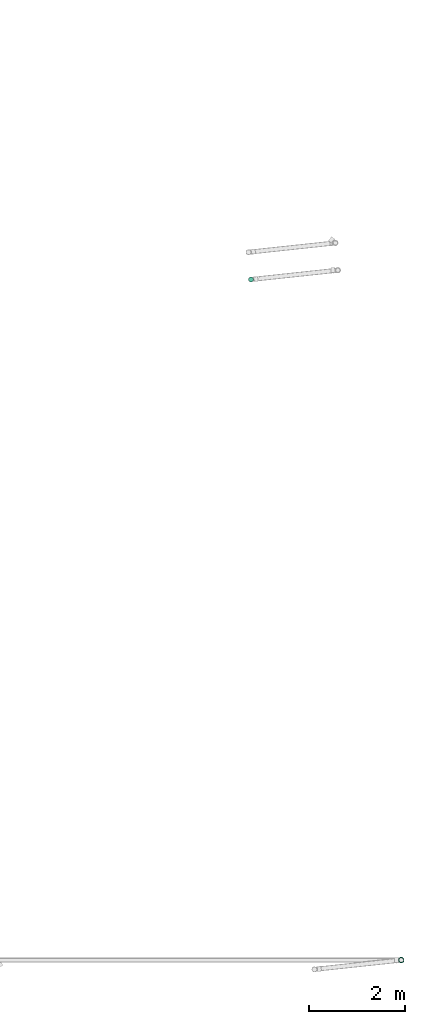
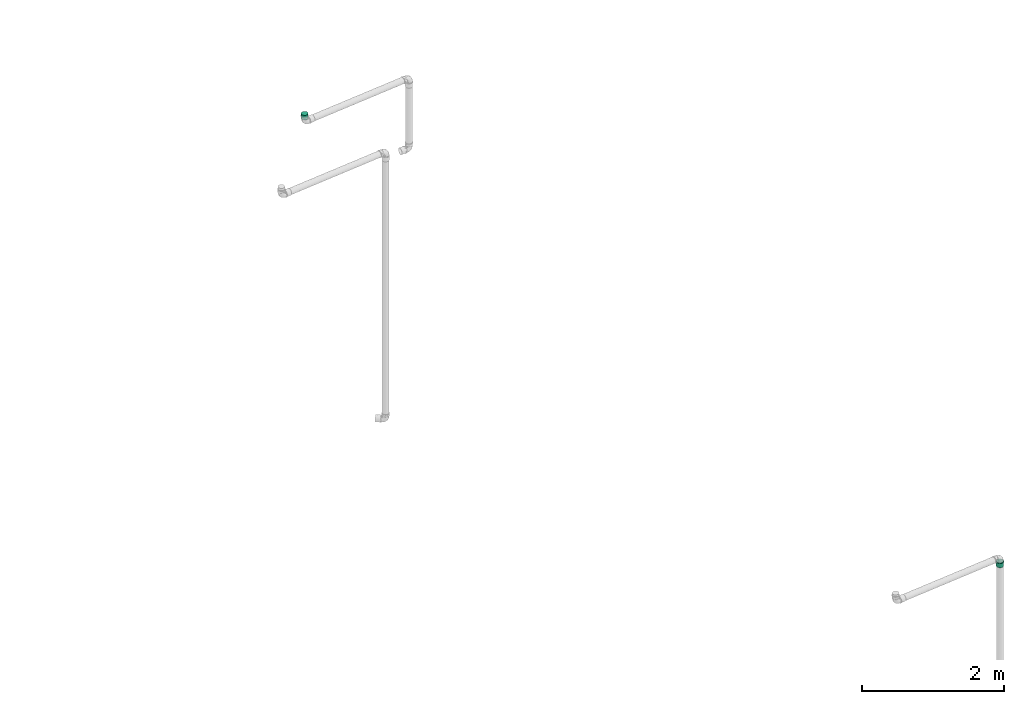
# One storey, part 39 of 97: 1 flow fitting, 1 flow segment.
"""IFC2X3 building model written with IfcOpenShell, lengths in centimetres."""

from ifc_helpers import new_model, entity, si_unit, converted_unit, derived_unit, direction, frame, frame_2d, origin, place, context, subcontext, project, spatial, circle, extrude, faceted_brep, source, transform, mapped, material, type_object, type_shapes, element, save


model = new_model("IFC2X3")

# Units and contexts
model_context = context("Model", 3, precision=0.001, world=origin(), true_north=direction((6.12303176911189e-17, 1.0)))
body_context = subcontext(model_context, "Body", "Model", "MODEL_VIEW")
ifc_project = project(units=[si_unit("LENGTHUNIT", "METRE", prefix="CENTI"), si_unit("AREAUNIT", "SQUARE_METRE"), si_unit("VOLUMEUNIT", "CUBIC_METRE"), converted_unit("PLANEANGLEUNIT", "DEGREE", entity("IfcRatioMeasure", 0.0174532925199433), si_unit("PLANEANGLEUNIT", "RADIAN"), dimensions=[0, 0, 0, 0, 0, 0, 0]), si_unit("MASSUNIT", "GRAM", prefix="KILO"), derived_unit("MASSDENSITYUNIT", [(si_unit("MASSUNIT", "GRAM", prefix="KILO"), 1), (si_unit("LENGTHUNIT", "METRE"), -3)]), derived_unit("MOMENTOFINERTIAUNIT", [(si_unit("LENGTHUNIT", "METRE"), 4)]), si_unit("TIMEUNIT", "SECOND"), si_unit("FREQUENCYUNIT", "HERTZ"), si_unit("THERMODYNAMICTEMPERATUREUNIT", "DEGREE_CELSIUS"), derived_unit("THERMALTRANSMITTANCEUNIT", [(si_unit("MASSUNIT", "GRAM", prefix="KILO"), 1), (si_unit("THERMODYNAMICTEMPERATUREUNIT", "KELVIN"), -1), (si_unit("TIMEUNIT", "SECOND"), -3)]), derived_unit("VOLUMETRICFLOWRATEUNIT", [(si_unit("LENGTHUNIT", "METRE"), 3), (si_unit("TIMEUNIT", "SECOND"), -1)]), si_unit("ELECTRICCURRENTUNIT", "AMPERE"), si_unit("ELECTRICVOLTAGEUNIT", "VOLT"), si_unit("POWERUNIT", "WATT"), si_unit("FORCEUNIT", "NEWTON", prefix="KILO"), si_unit("ILLUMINANCEUNIT", "LUX"), si_unit("LUMINOUSFLUXUNIT", "LUMEN"), si_unit("LUMINOUSINTENSITYUNIT", "CANDELA"), derived_unit("USERDEFINED", [(si_unit("MASSUNIT", "GRAM", prefix="KILO"), -1), (si_unit("LENGTHUNIT", "METRE"), -2), (si_unit("TIMEUNIT", "SECOND"), 3), (si_unit("LUMINOUSFLUXUNIT", "LUMEN"), 1)]), derived_unit("LINEARVELOCITYUNIT", [(si_unit("LENGTHUNIT", "METRE"), 1), (si_unit("TIMEUNIT", "SECOND"), -1)]), si_unit("PRESSUREUNIT", "PASCAL"), derived_unit("USERDEFINED", [(si_unit("LENGTHUNIT", "METRE"), -2), (si_unit("MASSUNIT", "GRAM", prefix="KILO"), 1), (si_unit("TIMEUNIT", "SECOND"), -2)]), derived_unit("LINEARFORCEUNIT", [(si_unit("MASSUNIT", "GRAM", prefix="KILO"), 1), (si_unit("LENGTHUNIT", "METRE"), 1), (si_unit("TIMEUNIT", "SECOND"), -2), (si_unit("LENGTHUNIT", "METRE"), -1)]), derived_unit("PLANARFORCEUNIT", [(si_unit("MASSUNIT", "GRAM", prefix="KILO"), 1), (si_unit("LENGTHUNIT", "METRE"), 1), (si_unit("TIMEUNIT", "SECOND"), -2), (si_unit("LENGTHUNIT", "METRE"), -2)])], contexts=[model_context])

# Site, building, storey
site_placement = place(None, origin())
site = spatial("IfcSite", under=ifc_project, at=site_placement, Name="Default", CompositionType="ELEMENT")
building_placement = place(site_placement, origin())
building = spatial("IfcBuilding", under=site, at=building_placement, Name="HIDROSSANITÁRIO", CompositionType="ELEMENT")
storey_placement = place(building_placement, frame((0.0, 0.0, -260.0)))
storey = spatial("IfcBuildingStorey", under=building, at=storey_placement, Name="TÉRREO-HID", CompositionType="ELEMENT", Elevation=-260.0)

# Flow segment
pipe_segment_type = type_object("IfcPipeSegmentType", Name="Tipos de tubos:Tubo - Esgoto - Série Normal", PredefinedType="NOTDEFINED")
flow_segment_placement = place(storey_placement, origin())
element("IfcFlowSegment", 1, at=flow_segment_placement, inside=storey, type_object=pipe_segment_type, Name="Tipos de tubos:Tubo - Esgoto - Série Normal", ObjectType="Tipos de tubos:Tubo - Esgoto - Série Normal", context=body_context, shape_type="SweptSolid", body=[
    extrude(circle(Radius=5.0, at=frame_2d((0.0, 2.16573425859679e-13), x_axis=(1.0, 0.0))), frame((2773.8827971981, 1337.38813773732, 625.900000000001), z_axis=(0.0, 0.0, 1.0), x_axis=(-1.0, 0.0, 0.0)), (0.0, 0.0, 1.0), 8.09999999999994),
])

# Flow fitting
ifc_material = material(Name="PVC Branco")
pipe_fitting_type = type_object("IfcPipeFittingType", Name="Luva Simples para Conexão - Serie Normal - Esgoto - MEP - Tigre:Standard", PredefinedType="NOTDEFINED", material=ifc_material)
shared_shape = source(origin(), body_context, "Body", "Brep", [
    faceted_brep([(1.77700000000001, 2.8725, -4.9753159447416), (1.77700000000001, 4.06232845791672, -4.06232845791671), (1.77700000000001, 2.65249999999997, -4.59426476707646), (1.77700000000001, 1.37303503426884, -5.12423650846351), (1.77700000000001, 1.48691541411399, -5.5492438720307), (1.77700000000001, 3.75120147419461, -3.75120147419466), (1.77700000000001, 4.9753159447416, -2.8725), (1.77700000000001, 4.59426476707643, -2.65250000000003), (1.77700000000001, 5.1242365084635, -1.37303503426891), (1.77700000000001, 5.5492438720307, -1.48691541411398), (1.77700000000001, 5.305, 0.0), (1.77700000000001, 5.745, 0.0), (1.77700000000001, 5.1242365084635, 1.3730350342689), (1.77700000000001, 5.54924387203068, 1.48691541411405), (1.77700000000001, 4.59426476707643, 2.65250000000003), (1.77700000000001, 4.97531594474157, 2.87250000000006), (1.77700000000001, 3.75120147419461, 3.75120147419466), (1.77700000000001, 4.06232845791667, 4.06232845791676), (1.77700000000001, 2.65249999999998, 4.59426476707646), (1.77700000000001, 2.87249999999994, 4.97531594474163), (1.77700000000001, 1.37303503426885, 5.12423650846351), (1.77700000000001, 1.48691541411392, 5.54924387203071), (1.77700000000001, 0.0, 5.305), (1.77700000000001, 0.0, 5.745), (1.77700000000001, -1.37303503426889, 5.1242365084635), (1.77700000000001, -1.48691541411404, 5.54924387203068), (1.77700000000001, -2.65250000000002, 4.59426476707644), (1.77700000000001, -2.87250000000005, 4.97531594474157), (1.77700000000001, -3.75120147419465, 3.75120147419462), (1.77700000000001, -4.06232845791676, 4.06232845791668), (1.77700000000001, -4.59426476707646, 2.65249999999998), (1.77700000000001, -4.97531594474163, 2.87249999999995), (1.77700000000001, -5.54924387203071, 1.48691541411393), (1.77700000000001, -5.12423650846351, 1.37303503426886), (1.77700000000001, -5.745, 0.0), (1.77700000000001, -5.305, 0.0), (1.77700000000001, -5.54924387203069, -1.486915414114), (1.77700000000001, -5.12423650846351, -1.37303503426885), (1.77700000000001, -4.97531594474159, -2.87250000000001), (1.77700000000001, -4.59426476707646, -2.65249999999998), (1.77700000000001, -4.06232845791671, -4.06232845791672), (1.77700000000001, -3.75120147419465, -3.75120147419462), (1.77700000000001, -2.87249999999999, -4.97531594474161), (1.77700000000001, -2.65250000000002, -4.59426476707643), (1.77700000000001, -1.48691541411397, -5.5492438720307), (1.77700000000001, -1.3730350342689, -5.1242365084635), (1.77700000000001, 0.0, -5.745), (1.77700000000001, 0.0, -5.305), (0.657000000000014, -1.93463887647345, 5.31665771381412), (0.657000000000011, -4.4007619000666, 3.69300957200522), (0.657000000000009, -4.89962626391, 2.82901737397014), (0.657000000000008, -5.39849062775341, 1.96502517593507), (0.657000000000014, -2.87216972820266, 4.97550661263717), (0.657000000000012, -3.63646581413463, 4.3342580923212), (0.657000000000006, -5.5717453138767, 0.982512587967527), (0.657000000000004, -5.745, 0.0), (0.657000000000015, -0.997108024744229, 5.65780881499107), (0.657000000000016, 0.998234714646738, 5.65761013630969), (0.657000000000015, 0.0005633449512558, 5.65770947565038), (0.657000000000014, 3.63732887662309, 4.33353383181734), (0.657000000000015, 1.93569761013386, 5.31627233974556), (0.657000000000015, 2.87316050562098, 4.97493454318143), (0.65700000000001, 5.39888184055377, 1.96395006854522), (0.657000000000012, 4.90018954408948, 2.82804159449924), (0.657000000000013, 4.40149724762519, 3.69213312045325), (0.657000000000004, 5.745, 0.0), (0.656999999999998, 4.40149724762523, -3.6921331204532), (0.657, 4.90018954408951, -2.82804159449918), (0.657000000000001, 5.39888184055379, -1.96395006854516), (0.656999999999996, 2.87316050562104, -4.9749345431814), (0.656999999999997, 3.63732887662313, -4.3335338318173), (0.656999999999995, 1.93569761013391, -5.31627233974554), (0.656999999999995, 0.998234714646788, -5.65761013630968), (0.656999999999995, -0.997108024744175, -5.65780881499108), (0.656999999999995, 0.000563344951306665, -5.65770947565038), (0.656999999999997, -3.6364658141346, -4.33425809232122), (0.656999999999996, -2.87216972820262, -4.9755066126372), (0.656999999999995, -1.9346388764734, -5.31665771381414), (0.657000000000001, -5.39849062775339, -1.96502517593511), (0.657, -4.89962626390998, -2.82901737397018), (0.656999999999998, -4.40076190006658, -3.69300957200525), (0.657000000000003, -5.5717453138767, -0.982512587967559), (8.35200000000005, 2.6525, -4.59426476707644), (8.35200000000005, 3.75120147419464, -3.75120147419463), (8.35200000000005, 2.49999999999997, -4.33012701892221), (8.35200000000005, 1.29409522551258, -4.82962913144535), (8.35200000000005, 1.37303503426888, -5.1242365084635), (8.35200000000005, 3.53553390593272, -3.53553390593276), (8.35200000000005, 4.59426476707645, -2.6525), (8.35200000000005, 4.33012701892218, -2.50000000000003), (8.35200000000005, 4.82962913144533, -1.29409522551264), (8.35200000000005, 5.12423650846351, -1.37303503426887), (8.35200000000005, 5.0, 0.0), (8.35200000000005, 5.305, 0.0), (8.35200000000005, 4.82962913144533, 1.29409522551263), (8.35200000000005, 5.12423650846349, 1.37303503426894), (8.35200000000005, 4.33012701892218, 2.50000000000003), (8.35200000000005, 4.59426476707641, 2.65250000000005), (8.35200000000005, 3.53553390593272, 3.53553390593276), (8.35200000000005, 3.75120147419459, 3.75120147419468), (8.35200000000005, 2.49999999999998, 4.33012701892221), (8.35200000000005, 2.65249999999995, 4.59426476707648), (8.35200000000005, 1.29409522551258, 4.82962913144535), (8.35200000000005, 1.37303503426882, 5.12423650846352), (8.35200000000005, 0.0, 5.0), (8.35200000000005, 0.0, 5.305), (8.35200000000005, -1.29409522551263, 4.82962913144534), (8.35200000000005, -1.37303503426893, 5.12423650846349), (8.35200000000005, -2.50000000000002, 4.33012701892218), (8.35200000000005, -2.65250000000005, 4.59426476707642), (8.35200000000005, -3.53553390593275, 3.53553390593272), (8.35200000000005, -3.75120147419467, 3.7512014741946), (8.35200000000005, -4.3301270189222, 2.49999999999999), (8.35200000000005, -4.59426476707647, 2.65249999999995), (8.35200000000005, -5.12423650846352, 1.37303503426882), (8.35200000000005, -4.82962913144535, 1.29409522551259), (8.35200000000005, -5.305, 0.0), (8.35200000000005, -5.0, 0.0), (8.35200000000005, -5.1242365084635, -1.37303503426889), (8.35200000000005, -4.82962913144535, -1.29409522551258), (8.35200000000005, -4.59426476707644, -2.65250000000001), (8.35200000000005, -4.3301270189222, -2.49999999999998), (8.35200000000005, -3.75120147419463, -3.75120147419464), (8.35200000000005, -3.53553390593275, -3.53553390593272), (8.35200000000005, -2.65249999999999, -4.59426476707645), (8.35200000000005, -2.50000000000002, -4.33012701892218), (8.35200000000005, -1.37303503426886, -5.12423650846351), (8.35200000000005, -1.29409522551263, -4.82962913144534), (8.35200000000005, 0.0, -5.305), (8.35200000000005, 0.0, -5.0), (0.0, 2.49999999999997, -4.33012701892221), (0.0, 3.75120147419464, -3.75120147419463), (0.0, 2.6525, -4.59426476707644), (0.0, 1.29409522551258, -4.82962913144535), (0.0, 3.53553390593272, -3.53553390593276), (0.0, 4.59426476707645, -2.6525), (0.0, 4.33012701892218, -2.50000000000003), (0.0, 4.82962913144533, -1.29409522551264), (0.0, 5.12423650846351, -1.37303503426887), (0.0, 5.0, 0.0), (0.0, 5.305, 0.0), (0.0, 4.82962913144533, 1.29409522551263), (0.0, 5.12423650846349, 1.37303503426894), (0.0, 4.33012701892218, 2.50000000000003), (0.0, 4.59426476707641, 2.65250000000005), (0.0, 3.53553390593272, 3.53553390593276), (0.0, 3.75120147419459, 3.75120147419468), (0.0, 2.49999999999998, 4.33012701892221), (0.0, 2.65249999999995, 4.59426476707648), (0.0, 1.29409522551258, 4.82962913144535), (0.0, 1.37303503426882, 5.12423650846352), (0.0, 0.0, 5.0), (0.0, 0.0, 5.305), (0.0, -1.29409522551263, 4.82962913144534), (0.0, -1.37303503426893, 5.12423650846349), (0.0, -2.50000000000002, 4.33012701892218), (0.0, -2.65250000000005, 4.59426476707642), (0.0, -3.53553390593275, 3.53553390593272), (0.0, -3.75120147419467, 3.7512014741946), (0.0, -4.3301270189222, 2.49999999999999), (0.0, -4.59426476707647, 2.65249999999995), (0.0, -5.12423650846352, 1.37303503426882), (0.0, -4.82962913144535, 1.29409522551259), (0.0, -5.305, 0.0), (0.0, -5.0, 0.0), (0.0, -5.1242365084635, -1.37303503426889), (0.0, -4.82962913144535, -1.29409522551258), (0.0, -4.59426476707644, -2.65250000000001), (0.0, -4.3301270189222, -2.49999999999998), (0.0, -3.75120147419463, -3.75120147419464), (0.0, -3.53553390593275, -3.53553390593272), (0.0, -2.65249999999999, -4.59426476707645), (0.0, -2.50000000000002, -4.33012701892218), (0.0, -1.37303503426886, -5.12423650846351), (0.0, -1.29409522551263, -4.82962913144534), (0.0, 0.0, -5.305), (0.0, 0.0, -5.0), (0.0, 1.37303503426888, -5.1242365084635), (0.537000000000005, -5.305, 0.0), (0.537000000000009, -4.98507989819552, 1.81438788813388), (0.537000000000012, -4.06390540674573, 3.4099410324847), (0.537000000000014, -2.65258010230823, 4.59421851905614), (0.537000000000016, -0.921325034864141, 5.22438371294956), (0.537000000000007, 5.1449924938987, 0.907324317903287), (0.537000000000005, 5.305, 0.0), (0.537000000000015, 2.65233979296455, 4.59435725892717), (0.537000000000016, 0.921051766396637, 5.22443189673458), (0.537000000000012, 4.06372704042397, 3.41015359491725), (0.537000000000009, 4.9849849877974, 1.81464863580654), (0.537000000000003, 5.14499249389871, -0.907324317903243), (0.537000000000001, 4.98498498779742, -1.81464863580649), (0.536999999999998, 4.063727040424, -3.41015359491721), (0.536999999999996, 2.6523397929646, -4.59435725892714), (0.536999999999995, 0.921051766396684, -5.22443189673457), (0.536999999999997, -2.6525801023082, -4.59421851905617), (0.536999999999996, -0.921325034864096, -5.22438371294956), (0.536999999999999, -4.0639054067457, -3.40994103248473), (0.537000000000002, -4.98507989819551, -1.81438788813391), (5.0, -5.0, 0.0), (5.0, 5.0, 0.0)], [[[0, 1, 2]], [[0, 2, 3]], [[3, 4, 0]], [[2, 1, 5]], [[6, 5, 1]], [[5, 6, 7]], [[7, 6, 8]], [[9, 8, 6]], [[9, 10, 8]], [[10, 9, 11]], [[12, 10, 11]], [[11, 13, 12]], [[12, 13, 14]], [[15, 14, 13]], [[14, 15, 16]], [[16, 15, 17]], [[18, 16, 17]], [[17, 19, 18]], [[18, 19, 20]], [[21, 20, 19]], [[20, 21, 22]], [[22, 21, 23]], [[22, 23, 24]], [[24, 23, 25]], [[24, 25, 26]], [[27, 26, 25]], [[27, 28, 26]], [[28, 27, 29]], [[29, 30, 28]], [[31, 30, 29]], [[30, 31, 32]], [[32, 33, 30]], [[34, 33, 32]], [[34, 35, 33]], [[36, 35, 34]], [[36, 37, 35]], [[37, 36, 38]], [[38, 39, 37]], [[39, 38, 40]], [[39, 40, 41]], [[40, 42, 41]], [[41, 42, 43]], [[43, 42, 44]], [[44, 45, 43]], [[46, 45, 44]], [[4, 47, 46]], [[46, 47, 45]], [[4, 3, 47]], [[48, 27, 25]], [[31, 29, 49]], [[31, 49, 50, 51]], [[52, 53, 27]], [[32, 51, 54]], [[54, 55, 34]], [[54, 34, 32]], [[25, 56, 48]], [[49, 29, 53]], [[23, 57, 58, 56]], [[59, 19, 17]], [[27, 53, 29]], [[48, 52, 27]], [[31, 51, 32]], [[57, 23, 21]], [[60, 19, 61]], [[15, 62, 63, 64]], [[19, 60, 21]], [[15, 13, 62]], [[17, 64, 59]], [[57, 21, 60]], [[23, 56, 25]], [[15, 64, 17]], [[13, 65, 62]], [[13, 11, 65]], [[59, 61, 19]], [[65, 11, 9]], [[6, 1, 66]], [[6, 66, 67, 68]], [[69, 70, 0]], [[68, 65, 9]], [[71, 69, 0]], [[71, 0, 4]], [[4, 72, 71]], [[66, 1, 70]], [[46, 73, 74, 72]], [[75, 76, 42]], [[0, 70, 1]], [[75, 42, 40]], [[6, 68, 9]], [[73, 46, 44]], [[77, 42, 76]], [[38, 78, 79, 80]], [[42, 77, 44]], [[38, 36, 78]], [[40, 80, 75]], [[73, 44, 77]], [[46, 72, 4]], [[38, 80, 40]], [[81, 78, 36]], [[55, 81, 34]], [[34, 81, 36]], [[82, 83, 84]], [[82, 84, 85]], [[85, 86, 82]], [[84, 83, 87]], [[88, 87, 83]], [[87, 88, 89]], [[89, 88, 90]], [[91, 90, 88]], [[91, 92, 90]], [[92, 91, 93]], [[94, 92, 93]], [[93, 95, 94]], [[94, 95, 96]], [[97, 96, 95]], [[96, 97, 98]], [[98, 97, 99]], [[100, 98, 99]], [[99, 101, 100]], [[100, 101, 102]], [[103, 102, 101]], [[102, 103, 104]], [[104, 103, 105]], [[104, 105, 106]], [[106, 105, 107]], [[106, 107, 108]], [[109, 108, 107]], [[110, 108, 109]], [[110, 109, 111]], [[111, 112, 110]], [[113, 112, 111]], [[112, 113, 114]], [[114, 115, 112]], [[116, 115, 114]], [[116, 117, 115]], [[118, 117, 116]], [[118, 119, 117]], [[119, 118, 120]], [[120, 121, 119]], [[121, 120, 122]], [[121, 122, 123]], [[122, 124, 123]], [[125, 123, 124]], [[125, 124, 126]], [[126, 127, 125]], [[128, 127, 126]], [[86, 129, 128]], [[128, 129, 127]], [[86, 85, 129]], [[130, 131, 132]], [[133, 130, 132]], [[134, 131, 130]], [[131, 134, 135]], [[136, 135, 134]], [[137, 135, 136]], [[135, 137, 138]], [[137, 139, 138]], [[140, 138, 139]], [[140, 139, 141]], [[141, 142, 140]], [[143, 142, 141]], [[142, 143, 144]], [[145, 144, 143]], [[146, 144, 145]], [[146, 145, 147]], [[147, 148, 146]], [[149, 148, 147]], [[148, 149, 150]], [[151, 150, 149]], [[152, 150, 151]], [[153, 152, 151]], [[154, 152, 153]], [[155, 154, 153]], [[154, 155, 156]], [[156, 155, 157]], [[158, 156, 157]], [[157, 159, 158]], [[158, 159, 160]], [[161, 160, 159]], [[159, 162, 161]], [[161, 162, 163]], [[162, 164, 163]], [[163, 164, 165]], [[164, 166, 165]], [[167, 165, 166]], [[166, 168, 167]], [[169, 167, 168]], [[170, 169, 168]], [[170, 171, 169]], [[171, 170, 172]], [[173, 171, 172]], [[172, 174, 173]], [[173, 174, 175]], [[174, 176, 175]], [[176, 133, 177]], [[175, 176, 177]], [[132, 177, 133]], [[161, 178, 179]], [[158, 180, 181]], [[179, 180, 160]], [[181, 182, 154]], [[179, 160, 161]], [[161, 163, 178]], [[35, 116, 114, 33]], [[183, 184, 140]], [[181, 156, 158]], [[158, 160, 180]], [[181, 154, 156]], [[182, 152, 154]], [[183, 140, 142]], [[185, 150, 186]], [[187, 146, 185]], [[142, 188, 183]], [[187, 188, 144]], [[185, 148, 150]], [[150, 152, 186]], [[187, 144, 146]], [[146, 148, 185]], [[188, 142, 144]], [[186, 152, 182]], [[189, 190, 138]], [[131, 191, 192]], [[190, 191, 135]], [[192, 193, 177]], [[190, 135, 138]], [[184, 189, 140]], [[192, 132, 131]], [[131, 135, 191]], [[192, 177, 132]], [[193, 175, 177]], [[140, 189, 138]], [[194, 173, 195]], [[196, 169, 194]], [[165, 197, 178]], [[196, 197, 167]], [[165, 178, 163]], [[35, 37, 118, 116]], [[194, 171, 173]], [[173, 175, 195]], [[196, 167, 169]], [[169, 171, 194]], [[197, 165, 167]], [[195, 175, 193]], [[115, 117, 198, 164, 162]], [[155, 108, 110, 157]], [[110, 112, 159, 157]], [[112, 115, 162, 159]], [[106, 108, 155, 153]], [[153, 151, 104, 106]], [[102, 104, 151, 149]], [[102, 149, 147, 100]], [[141, 94, 96, 143]], [[96, 98, 145, 143]], [[98, 100, 147, 145]], [[92, 94, 141, 139, 199]], [[199, 139, 137, 90, 92]], [[87, 89, 136, 134]], [[134, 130, 84, 87]], [[89, 90, 137, 136]], [[85, 84, 130, 133]], [[133, 176, 129, 85]], [[127, 129, 176, 174]], [[127, 174, 172, 125]], [[166, 119, 121, 168]], [[121, 123, 170, 168]], [[123, 125, 172, 170]], [[117, 119, 166, 164, 198]], [[81, 178, 197]], [[190, 68, 67]], [[194, 75, 196]], [[193, 72, 74]], [[195, 77, 194]], [[79, 197, 196]], [[81, 55, 178]], [[192, 69, 71]], [[79, 78, 197]], [[194, 77, 76]], [[191, 66, 70]], [[80, 196, 75]], [[68, 190, 189]], [[74, 195, 193]], [[192, 71, 193]], [[190, 67, 191]], [[70, 192, 191]], [[65, 189, 184]], [[195, 73, 77]], [[193, 71, 72]], [[197, 78, 81]], [[191, 67, 66]], [[189, 65, 68]], [[196, 80, 79]], [[70, 69, 192]], [[194, 76, 75]], [[73, 195, 74]], [[65, 183, 62]], [[48, 56, 182]], [[58, 182, 56]], [[54, 51, 179]], [[59, 185, 61]], [[60, 186, 57]], [[53, 52, 181]], [[63, 187, 64]], [[58, 57, 186]], [[187, 63, 188]], [[186, 60, 185]], [[50, 49, 180]], [[185, 59, 187]], [[59, 64, 187]], [[182, 58, 186]], [[50, 179, 51]], [[54, 178, 55]], [[53, 180, 49]], [[63, 62, 188]], [[181, 48, 182]], [[183, 65, 184]], [[179, 50, 180]], [[178, 54, 179]], [[183, 188, 62]], [[180, 53, 181]], [[60, 61, 185]], [[48, 181, 52]], [[30, 33, 114, 113]], [[26, 28, 111, 109]], [[113, 111, 28, 30]], [[107, 24, 26, 109]], [[107, 105, 22, 24]], [[18, 20, 103, 101]], [[99, 16, 18, 101]], [[12, 14, 97, 95]], [[99, 97, 14, 16]], [[10, 12, 95, 93]], [[103, 20, 22, 105]], [[91, 8, 10, 93]], [[88, 7, 8, 91]], [[82, 86, 3, 2]], [[83, 5, 7, 88]], [[2, 5, 83, 82]], [[86, 128, 47, 3]], [[43, 45, 126, 124]], [[122, 41, 43, 124]], [[37, 39, 120, 118]], [[122, 120, 39, 41]], [[126, 45, 47, 128]]]),
])
type_shapes(pipe_fitting_type, [shared_shape])
flow_fitting_placement = place(storey_placement, frame((3087.06789897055, -81.2994897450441, 614.1), z_axis=(0.106567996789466, -0.994305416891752, 0.0), x_axis=(0.0, 0.0, -1.0)))
element("IfcFlowFitting", 2, at=flow_fitting_placement, inside=storey, type_object=pipe_fitting_type, material=ifc_material, Name="Luva Simples para Conexão - Serie Normal - Esgoto - MEP - Tigre:Standard", ObjectType="Luva Simples para Conexão - Serie Normal - Esgoto - MEP - Tigre:Standard", context=body_context, shape_type="MappedRepresentation", body=[
    mapped(shared_shape, transform((0.0, 0.0, 0.0), scale=1.0)),
])

save(model, "model.ifc")
